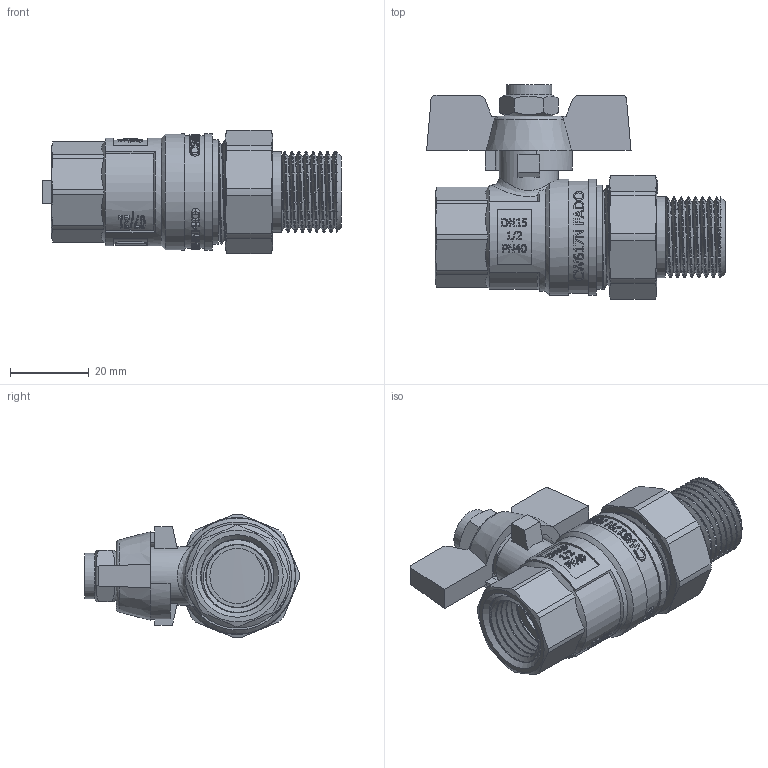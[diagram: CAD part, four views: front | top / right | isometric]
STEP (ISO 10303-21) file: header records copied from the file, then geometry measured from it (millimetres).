
FILE_DESCRIPTION(/* description */ (''),/* implementation_level */ '2;1');
FILE_NAME(/* name */ 'C:\Users\Doom\Desktop\Фадотех\KA11 08.11.2021\KA11 08.11.2021.stp',/* time_stamp */ '2021-12-03T20:19:19+02:00',/* author */ ('Doom'),/* organization */ (''),/* preprocessor_version */ 'ST-DEVELOPER v18',/* originating_system */ 'Autodesk Inventor 2020',/* authorisation */ '');
FILE_SCHEMA (('AUTOMOTIVE_DESIGN { 1 0 10303 214 3 1 1 }'));
Length unit declared in the file: millimetre
Products named in the file (10): KA11 08.11.2021; 5010501048005; KA2 08.11.2021; 22208286; KA1 08.11.2021; 20642011; KA2 08.11.2021_1; KA2 08.11.2021_2; KA1 08.11.2021_1; DIN 985 - M8
Assembly tree (9 placements, depth 2):
  KA11 08.11.2021
    5010501048005
    KA2 08.11.2021
    22208286
    KA1 08.11.2021
    20642011
    KA2 08.11.2021_1
    KA2 08.11.2021_2
    KA1 08.11.2021_1
    DIN 985 - M8
Bounding box: 76 x 54.55 x 31.5 mm (x, y, z)
Volume: 32290.4 mm3; surface area: 37444.8 mm2
Topology: 18 solids, 18 shells, 2556 faces, 7329 edges, 4895 vertices
Faces by surface type: plane 1344, bspline 749, cylinder 395, cone 58, torus 9, sphere 1
Full cylindrical faces by diameter (mm): 6.647 x1, 8 x1, 8.1 x1, 8.2 x1, 8.946 x3, 10 x1, 10.3 x1, 10.8 x2, 11.6 x1, 12.5 x2, 14 x3, 15 x1, 15.3 x1, 15.94 x6, 16 x1, 17.5 x1, 17.91 x2, 18 x1, 18.63 x2, 19 x1, 20 x3, 20.6 x1, 21.276 x5, 21.681 x6, 21.9 x1, 23.5 x2, 23.517 x2, 23.81 x2, 24 x1, 24.372 x2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
Entity records: 137746 total; most frequent: CARTESIAN_POINT 80153, ORIENTED_EDGE 14636, DIRECTION 7711, EDGE_CURVE 7318, VERTEX_POINT 4890, B_SPLINE_CURVE_WITH_KNOTS 3914, EDGE_LOOP 2678, AXIS2_PLACEMENT_3D 2671
